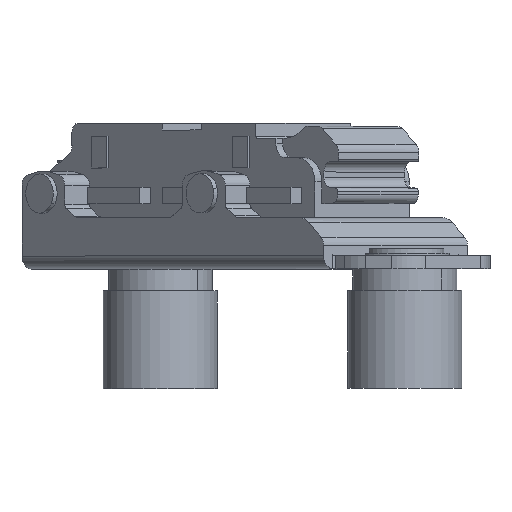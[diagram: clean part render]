
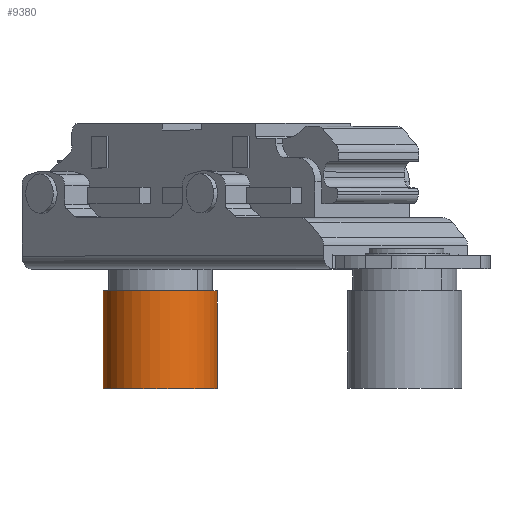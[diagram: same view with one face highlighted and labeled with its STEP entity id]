
A CAD part, top view. The second image highlights one B-rep face of the part: STEP entity #9380.
In plain terms, the highlighted cylindrical face has radius 5.25 mm (diameter 10.5 mm), a partial arc.
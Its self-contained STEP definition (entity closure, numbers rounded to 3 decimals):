
#464 = VERTEX_POINT ( 'NONE', #4527 ) ;
#2240 = VECTOR ( 'NONE', #5393, 1000. ) ;
#2268 = CARTESIAN_POINT ( 'NONE',  ( -5.47, -17.8, -5.561 ) ) ;
#2313 = DIRECTION ( 'NONE',  ( 0., -1., 0. ) ) ;
#3214 = ORIENTED_EDGE ( 'NONE', *, *, #10961, .F. ) ;
#3370 = CARTESIAN_POINT ( 'NONE',  ( -5.47, -8.8, -5.561 ) ) ;
#3375 = EDGE_LOOP ( 'NONE', ( #10666, #13738, #7921, #3214 ) ) ;
#3995 = DIRECTION ( 'NONE',  ( 0., -1., 0. ) ) ;
#4074 = CARTESIAN_POINT ( 'NONE',  ( -0.22, 6.049, -5.561 ) ) ;
#4527 = CARTESIAN_POINT ( 'NONE',  ( -10.72, -8.8, -5.561 ) ) ;
#5393 = DIRECTION ( 'NONE',  ( 0., -1., 0. ) ) ;
#6029 = CARTESIAN_POINT ( 'NONE',  ( -5.47, 6.049, -5.561 ) ) ;
#6223 = VECTOR ( 'NONE', #3995, 1000. ) ;
#6392 = CARTESIAN_POINT ( 'NONE',  ( -10.72, -17.8, -5.561 ) ) ;
#6631 = CIRCLE ( 'NONE', #14602, 5.25 ) ;
#7921 = ORIENTED_EDGE ( 'NONE', *, *, #8627, .F. ) ;
#8461 = FACE_OUTER_BOUND ( 'NONE', #3375, .T. ) ;
#8627 = EDGE_CURVE ( 'NONE', #14447, #13657, #10637, .T. ) ;
#9040 = AXIS2_PLACEMENT_3D ( 'NONE', #6029, #2313, #13308 ) ;
#9270 = LINE ( 'NONE', #10641, #2240 ) ;
#9380 = ADVANCED_FACE ( 'NONE', ( #8461 ), #13235, .T. ) ;
#9653 = EDGE_CURVE ( 'NONE', #464, #13657, #9270, .T. ) ;
#9950 = DIRECTION ( 'NONE',  ( 0., -1., 0. ) ) ;
#10281 = VERTEX_POINT ( 'NONE', #11243 ) ;
#10637 = CIRCLE ( 'NONE', #14497, 5.25 ) ;
#10641 = CARTESIAN_POINT ( 'NONE',  ( -10.72, 6.049, -5.561 ) ) ;
#10666 = ORIENTED_EDGE ( 'NONE', *, *, #14400, .F. ) ;
#10961 = EDGE_CURVE ( 'NONE', #10281, #14447, #13949, .T. ) ;
#11243 = CARTESIAN_POINT ( 'NONE',  ( -0.22, -8.8, -5.561 ) ) ;
#12345 = CARTESIAN_POINT ( 'NONE',  ( -0.22, -17.8, -5.561 ) ) ;
#12382 = DIRECTION ( 'NONE',  ( 1., 0., 0. ) ) ;
#13235 = CYLINDRICAL_SURFACE ( 'NONE', #9040, 5.25 ) ;
#13308 = DIRECTION ( 'NONE',  ( 1., 0., 0. ) ) ;
#13657 = VERTEX_POINT ( 'NONE', #6392 ) ;
#13738 = ORIENTED_EDGE ( 'NONE', *, *, #9653, .T. ) ;
#13949 = LINE ( 'NONE', #4074, #6223 ) ;
#14400 = EDGE_CURVE ( 'NONE', #464, #10281, #6631, .T. ) ;
#14447 = VERTEX_POINT ( 'NONE', #12345 ) ;
#14497 = AXIS2_PLACEMENT_3D ( 'NONE', #2268, #9950, #12382 ) ;
#14602 = AXIS2_PLACEMENT_3D ( 'NONE', #3370, #15965, #15726 ) ;
#15726 = DIRECTION ( 'NONE',  ( 0.702, 0., 0.712 ) ) ;
#15965 = DIRECTION ( 'NONE',  ( 0., 1., 0. ) ) ;
